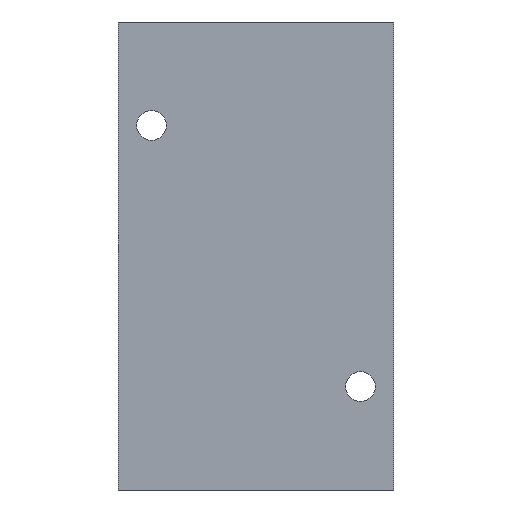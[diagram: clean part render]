
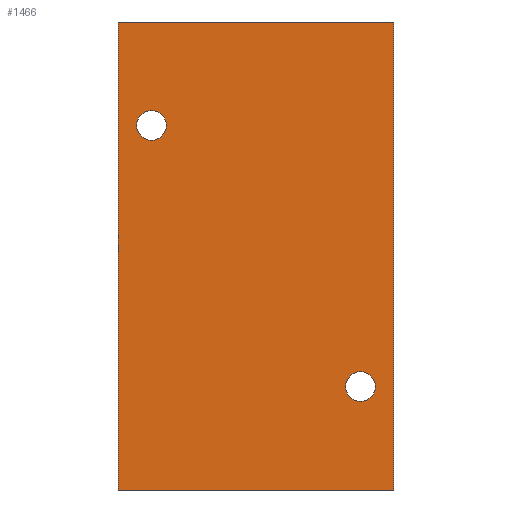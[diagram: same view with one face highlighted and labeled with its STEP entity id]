
A CAD part, front view. The second image highlights one B-rep face of the part: STEP entity #1466.
In plain terms, the highlighted planar face has unit normal (0, -1, 0).
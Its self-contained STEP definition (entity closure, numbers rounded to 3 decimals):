
#13 = EDGE_CURVE ( 'NONE', #764, #1014, #1220, .T. ) ;
#15 = ORIENTED_EDGE ( 'NONE', *, *, #1535, .F. ) ;
#21 = DIRECTION ( 'NONE',  ( 1., 0., 0. ) ) ;
#36 = CARTESIAN_POINT ( 'NONE',  ( -50., -52.5, 55.375 ) ) ;
#38 = AXIS2_PLACEMENT_3D ( 'NONE', #384, #1264, #506 ) ;
#51 = VECTOR ( 'NONE', #393, 1000. ) ;
#63 = EDGE_LOOP ( 'NONE', ( #1159, #75 ) ) ;
#72 = AXIS2_PLACEMENT_3D ( 'NONE', #319, #353, #254 ) ;
#75 = ORIENTED_EDGE ( 'NONE', *, *, #105, .F. ) ;
#105 = EDGE_CURVE ( 'NONE', #802, #318, #457, .T. ) ;
#116 = CIRCLE ( 'NONE', #1111, 7.125 ) ;
#118 = VECTOR ( 'NONE', #362, 1000. ) ;
#131 = CARTESIAN_POINT ( 'NONE',  ( 66., -52.5, -112. ) ) ;
#201 = CARTESIAN_POINT ( 'NONE',  ( 50., -52.5, -62.5 ) ) ;
#221 = FACE_BOUND ( 'NONE', #63, .T. ) ;
#254 = DIRECTION ( 'NONE',  ( 0., 0., -1. ) ) ;
#269 = LINE ( 'NONE', #1437, #1323 ) ;
#318 = VERTEX_POINT ( 'NONE', #36 ) ;
#319 = CARTESIAN_POINT ( 'NONE',  ( -50., -52.5, 62.5 ) ) ;
#322 = CARTESIAN_POINT ( 'NONE',  ( -66., -52.5, 112. ) ) ;
#339 = DIRECTION ( 'NONE',  ( 0., 0., -1. ) ) ;
#353 = DIRECTION ( 'NONE',  ( 0., -1., 0. ) ) ;
#362 = DIRECTION ( 'NONE',  ( 0., 0., -1. ) ) ;
#368 = CARTESIAN_POINT ( 'NONE',  ( -50., -52.5, 69.625 ) ) ;
#384 = CARTESIAN_POINT ( 'NONE',  ( -50., -52.5, 62.5 ) ) ;
#393 = DIRECTION ( 'NONE',  ( 0., 0., -1. ) ) ;
#394 = CARTESIAN_POINT ( 'NONE',  ( -66., -52.5, -112. ) ) ;
#456 = VECTOR ( 'NONE', #21, 1000. ) ;
#457 = CIRCLE ( 'NONE', #72, 7.125 ) ;
#506 = DIRECTION ( 'NONE',  ( 0., 0., -1. ) ) ;
#510 = VERTEX_POINT ( 'NONE', #1131 ) ;
#513 = CARTESIAN_POINT ( 'NONE',  ( -66., -52.5, -112. ) ) ;
#553 = PLANE ( 'NONE',  #560 ) ;
#560 = AXIS2_PLACEMENT_3D ( 'NONE', #322, #1318, #1311 ) ;
#566 = EDGE_LOOP ( 'NONE', ( #1576, #15 ) ) ;
#570 = EDGE_CURVE ( 'NONE', #1467, #510, #269, .T. ) ;
#598 = DIRECTION ( 'NONE',  ( 0., 0., -1. ) ) ;
#634 = CIRCLE ( 'NONE', #38, 7.125 ) ;
#700 = CARTESIAN_POINT ( 'NONE',  ( -66., -52.5, 112. ) ) ;
#754 = LINE ( 'NONE', #513, #456 ) ;
#757 = EDGE_CURVE ( 'NONE', #1611, #1089, #754, .T. ) ;
#758 = DIRECTION ( 'NONE',  ( 1., 0., 0. ) ) ;
#764 = VERTEX_POINT ( 'NONE', #1372 ) ;
#774 = ORIENTED_EDGE ( 'NONE', *, *, #924, .T. ) ;
#779 = CARTESIAN_POINT ( 'NONE',  ( -66., -52.5, 112. ) ) ;
#802 = VERTEX_POINT ( 'NONE', #368 ) ;
#822 = CARTESIAN_POINT ( 'NONE',  ( 50., -52.5, -55.375 ) ) ;
#829 = EDGE_CURVE ( 'NONE', #318, #802, #634, .T. ) ;
#839 = ORIENTED_EDGE ( 'NONE', *, *, #757, .T. ) ;
#860 = ORIENTED_EDGE ( 'NONE', *, *, #1524, .F. ) ;
#864 = CARTESIAN_POINT ( 'NONE',  ( 50., -52.5, -62.5 ) ) ;
#908 = EDGE_LOOP ( 'NONE', ( #839, #860, #1271, #774 ) ) ;
#924 = EDGE_CURVE ( 'NONE', #1467, #1611, #1519, .T. ) ;
#984 = DIRECTION ( 'NONE',  ( 0., -1., 0. ) ) ;
#1014 = VERTEX_POINT ( 'NONE', #822 ) ;
#1083 = AXIS2_PLACEMENT_3D ( 'NONE', #201, #1454, #339 ) ;
#1089 = VERTEX_POINT ( 'NONE', #131 ) ;
#1111 = AXIS2_PLACEMENT_3D ( 'NONE', #864, #984, #598 ) ;
#1131 = CARTESIAN_POINT ( 'NONE',  ( 66., -52.5, 112. ) ) ;
#1159 = ORIENTED_EDGE ( 'NONE', *, *, #829, .F. ) ;
#1216 = FACE_OUTER_BOUND ( 'NONE', #908, .T. ) ;
#1220 = CIRCLE ( 'NONE', #1083, 7.125 ) ;
#1226 = CARTESIAN_POINT ( 'NONE',  ( 66., -52.5, 112. ) ) ;
#1264 = DIRECTION ( 'NONE',  ( 0., -1., 0. ) ) ;
#1271 = ORIENTED_EDGE ( 'NONE', *, *, #570, .F. ) ;
#1311 = DIRECTION ( 'NONE',  ( 0., 0., 1. ) ) ;
#1318 = DIRECTION ( 'NONE',  ( 0., 1., 0. ) ) ;
#1323 = VECTOR ( 'NONE', #758, 1000. ) ;
#1372 = CARTESIAN_POINT ( 'NONE',  ( 50., -52.5, -69.625 ) ) ;
#1437 = CARTESIAN_POINT ( 'NONE',  ( -66., -52.5, 112. ) ) ;
#1454 = DIRECTION ( 'NONE',  ( 0., -1., 0. ) ) ;
#1466 = ADVANCED_FACE ( 'NONE', ( #221, #1216, #1570 ), #553, .F. ) ;
#1467 = VERTEX_POINT ( 'NONE', #700 ) ;
#1519 = LINE ( 'NONE', #779, #51 ) ;
#1524 = EDGE_CURVE ( 'NONE', #510, #1089, #1606, .T. ) ;
#1535 = EDGE_CURVE ( 'NONE', #1014, #764, #116, .T. ) ;
#1570 = FACE_BOUND ( 'NONE', #566, .T. ) ;
#1576 = ORIENTED_EDGE ( 'NONE', *, *, #13, .F. ) ;
#1606 = LINE ( 'NONE', #1226, #118 ) ;
#1611 = VERTEX_POINT ( 'NONE', #394 ) ;
